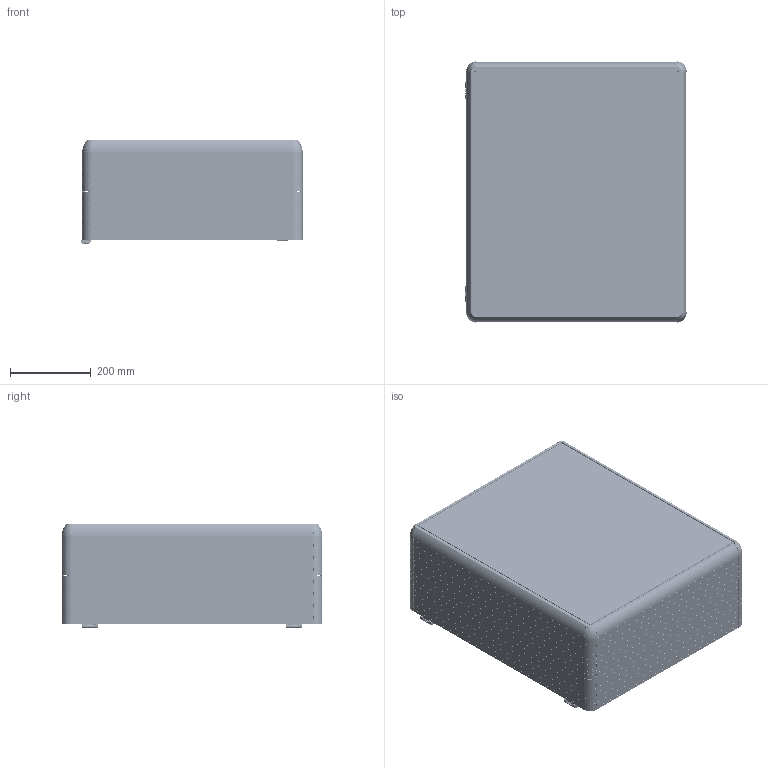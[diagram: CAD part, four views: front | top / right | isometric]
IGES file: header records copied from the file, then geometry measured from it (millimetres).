
Start section: SolidWorks IGES file using analytic representation for surfaces
Global section: file name: D:\PANO_STEP\1590\1590 datalar\1590-0014.IGS; native system: SolidWorks 2022; preprocessor: SolidWorks 2022; author: User; date: 220422.114045; units: millimetre
Bounding box: 549.03 x 647 x 258.47 mm (x, y, z)
Surface area: 3900841.2 mm2 (no closed solid volume)
Topology: 0 solids, 0 shells, 15501 faces, 121388 edges, 121039 vertices
Faces by surface type: bspline 10087, revolution 5414
